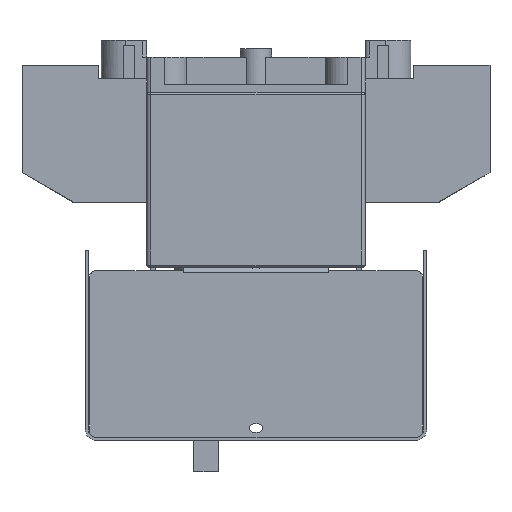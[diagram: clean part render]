
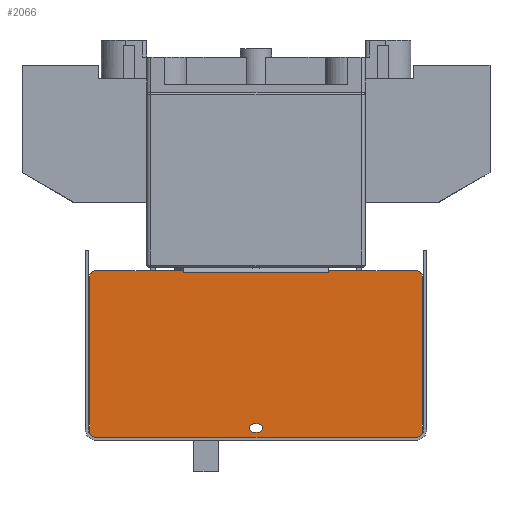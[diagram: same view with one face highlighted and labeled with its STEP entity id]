
A CAD part, left-side view. The second image highlights one B-rep face of the part: STEP entity #2066.
In plain terms, the highlighted planar face has unit normal (-1, 0, 0).
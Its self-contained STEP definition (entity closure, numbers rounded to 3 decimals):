
#170=FACE_BOUND('',#5221,.T.);
#171=FACE_BOUND('',#5222,.T.);
#1106=CIRCLE('',#23888,2.1);
#1108=CIRCLE('',#23892,2.1);
#1110=CIRCLE('',#23896,3.);
#1112=CIRCLE('',#23899,3.);
#1114=CIRCLE('',#23903,3.);
#1116=CIRCLE('',#23907,3.);
#2066=ADVANCED_FACE('',(#170,#171),#3020,.T.);
#3020=PLANE('',#23910);
#5221=EDGE_LOOP('',(#9303,#9304,#9305,#9306,#9307,#9308,#9309,#9310,#9311,
#9312,#9313,#9314,#9315,#9316));
#5222=EDGE_LOOP('',(#9317,#9318,#9319,#9320));
#9303=ORIENTED_EDGE('',*,*,#16331,.F.);
#9304=ORIENTED_EDGE('',*,*,#16332,.T.);
#9305=ORIENTED_EDGE('',*,*,#16333,.T.);
#9306=ORIENTED_EDGE('',*,*,#16334,.T.);
#9307=ORIENTED_EDGE('',*,*,#16335,.F.);
#9308=ORIENTED_EDGE('',*,*,#16323,.T.);
#9309=ORIENTED_EDGE('',*,*,#16328,.T.);
#9310=ORIENTED_EDGE('',*,*,#16311,.T.);
#9311=ORIENTED_EDGE('',*,*,#16314,.T.);
#9312=ORIENTED_EDGE('',*,*,#16289,.T.);
#9313=ORIENTED_EDGE('',*,*,#16317,.T.);
#9314=ORIENTED_EDGE('',*,*,#16320,.T.);
#9315=ORIENTED_EDGE('',*,*,#16322,.T.);
#9316=ORIENTED_EDGE('',*,*,#16297,.T.);
#9317=ORIENTED_EDGE('',*,*,#16301,.T.);
#9318=ORIENTED_EDGE('',*,*,#16305,.T.);
#9319=ORIENTED_EDGE('',*,*,#16308,.T.);
#9320=ORIENTED_EDGE('',*,*,#16330,.T.);
#13214=VERTEX_POINT('',#33435);
#13259=VERTEX_POINT('',#33532);
#13543=VERTEX_POINT('',#34623);
#13544=VERTEX_POINT('',#34625);
#13547=VERTEX_POINT('',#34632);
#13548=VERTEX_POINT('',#34634);
#13550=VERTEX_POINT('',#34640);
#13552=VERTEX_POINT('',#34646);
#13555=VERTEX_POINT('',#34653);
#13556=VERTEX_POINT('',#34655);
#13558=VERTEX_POINT('',#34664);
#13560=VERTEX_POINT('',#34670);
#13561=VERTEX_POINT('',#34677);
#13562=VERTEX_POINT('',#34678);
#13565=VERTEX_POINT('',#34692);
#13566=VERTEX_POINT('',#34694);
#13567=VERTEX_POINT('',#34696);
#13568=VERTEX_POINT('',#34698);
#16289=EDGE_CURVE('',#13214,#13259,#19143,.T.);
#16297=EDGE_CURVE('',#13544,#13543,#19150,.T.);
#16301=EDGE_CURVE('',#13548,#13547,#1106,.T.);
#16305=EDGE_CURVE('',#13547,#13550,#19156,.T.);
#16308=EDGE_CURVE('',#13550,#13552,#1108,.T.);
#16311=EDGE_CURVE('',#13556,#13555,#19160,.T.);
#16314=EDGE_CURVE('',#13555,#13214,#1110,.T.);
#16317=EDGE_CURVE('',#13259,#13558,#1112,.T.);
#16320=EDGE_CURVE('',#13558,#13560,#19165,.T.);
#16322=EDGE_CURVE('',#13560,#13544,#1114,.T.);
#16323=EDGE_CURVE('',#13561,#13562,#19166,.T.);
#16328=EDGE_CURVE('',#13562,#13556,#1116,.T.);
#16330=EDGE_CURVE('',#13552,#13548,#19171,.T.);
#16331=EDGE_CURVE('',#13565,#13543,#19172,.T.);
#16332=EDGE_CURVE('',#13565,#13566,#19173,.T.);
#16333=EDGE_CURVE('',#13566,#13567,#19174,.T.);
#16334=EDGE_CURVE('',#13567,#13568,#19175,.T.);
#16335=EDGE_CURVE('',#13561,#13568,#19176,.T.);
#19143=LINE('',#34606,#21653);
#19150=LINE('',#34624,#21660);
#19156=LINE('',#34641,#21666);
#19160=LINE('',#34654,#21670);
#19165=LINE('',#34671,#21675);
#19166=LINE('',#34676,#21676);
#19171=LINE('',#34689,#21681);
#19172=LINE('',#34691,#21682);
#19173=LINE('',#34693,#21683);
#19174=LINE('',#34695,#21684);
#19175=LINE('',#34697,#21685);
#19176=LINE('',#34699,#21686);
#21653=VECTOR('',#28133,1.);
#21660=VECTOR('',#28146,1.);
#21666=VECTOR('',#28160,1.);
#21670=VECTOR('',#28172,1.);
#21675=VECTOR('',#28191,1.);
#21676=VECTOR('',#28200,1.);
#21681=VECTOR('',#28213,1.);
#21682=VECTOR('',#28216,1.);
#21683=VECTOR('',#28217,1.);
#21684=VECTOR('',#28218,1.);
#21685=VECTOR('',#28219,1.);
#21686=VECTOR('',#28220,1.);
#23888=AXIS2_PLACEMENT_3D('',#34633,#28153,#28154);
#23892=AXIS2_PLACEMENT_3D('',#34647,#28166,#28167);
#23896=AXIS2_PLACEMENT_3D('',#34659,#28178,#28179);
#23899=AXIS2_PLACEMENT_3D('',#34665,#28185,#28186);
#23903=AXIS2_PLACEMENT_3D('',#34674,#28196,#28197);
#23907=AXIS2_PLACEMENT_3D('',#34686,#28208,#28209);
#23910=AXIS2_PLACEMENT_3D('',#34700,#28221,#28222);
#28133=DIRECTION('',(0.,-1.,0.));
#28146=DIRECTION('',(0.,1.,0.));
#28153=DIRECTION('',(1.,0.,0.));
#28154=DIRECTION('',(0.,1.,0.));
#28160=DIRECTION('',(0.,-1.,0.));
#28166=DIRECTION('',(1.,0.,0.));
#28167=DIRECTION('',(0.,1.,0.));
#28172=DIRECTION('',(0.,0.,-1.));
#28178=DIRECTION('',(-1.,0.,0.));
#28179=DIRECTION('',(0.,1.,0.));
#28185=DIRECTION('',(-1.,0.,0.));
#28186=DIRECTION('',(0.,1.,0.));
#28191=DIRECTION('',(0.,0.,1.));
#28196=DIRECTION('',(-1.,0.,0.));
#28197=DIRECTION('',(0.,1.,0.));
#28200=DIRECTION('',(0.,1.,0.));
#28208=DIRECTION('',(-1.,0.,0.));
#28209=DIRECTION('',(0.,1.,0.));
#28213=DIRECTION('',(0.,1.,0.));
#28216=DIRECTION('',(0.,0.,1.));
#28217=DIRECTION('',(0.,1.,0.));
#28218=DIRECTION('',(0.,1.,0.));
#28219=DIRECTION('',(0.,1.,0.));
#28220=DIRECTION('',(0.,0.,-1.));
#28221=DIRECTION('',(-1.,0.,0.));
#28222=DIRECTION('',(0.,-1.,0.));
#33435=CARTESIAN_POINT('',(-189.3,77.,-165.8));
#33532=CARTESIAN_POINT('',(-189.3,-77.,-165.8));
#34606=CARTESIAN_POINT('',(-189.3,77.,-165.8));
#34623=CARTESIAN_POINT('',(-189.3,-35.002,-85.8));
#34624=CARTESIAN_POINT('',(-189.3,-77.,-85.8));
#34625=CARTESIAN_POINT('',(-189.3,-77.,-85.8));
#34632=CARTESIAN_POINT('',(-189.3,1.,-159.3));
#34633=CARTESIAN_POINT('',(-189.3,1.,-161.4));
#34634=CARTESIAN_POINT('',(-189.3,1.,-163.5));
#34640=CARTESIAN_POINT('',(-189.3,-1.,-159.3));
#34641=CARTESIAN_POINT('',(-189.3,1.,-159.3));
#34646=CARTESIAN_POINT('',(-189.3,-1.,-163.5));
#34647=CARTESIAN_POINT('',(-189.3,-1.,-161.4));
#34653=CARTESIAN_POINT('',(-189.3,80.,-162.8));
#34654=CARTESIAN_POINT('',(-189.3,80.,-88.8));
#34655=CARTESIAN_POINT('',(-189.3,80.,-88.8));
#34659=CARTESIAN_POINT('',(-189.3,77.,-162.8));
#34664=CARTESIAN_POINT('',(-189.3,-80.,-162.8));
#34665=CARTESIAN_POINT('',(-189.3,-77.,-162.8));
#34670=CARTESIAN_POINT('',(-189.3,-80.,-88.8));
#34671=CARTESIAN_POINT('',(-189.3,-80.,-162.8));
#34674=CARTESIAN_POINT('',(-189.3,-77.,-88.8));
#34676=CARTESIAN_POINT('',(-189.3,-77.,-85.8));
#34677=CARTESIAN_POINT('',(-189.3,35.002,-85.8));
#34678=CARTESIAN_POINT('',(-189.3,77.,-85.8));
#34686=CARTESIAN_POINT('',(-189.3,77.,-88.8));
#34689=CARTESIAN_POINT('',(-189.3,-1.,-163.5));
#34691=CARTESIAN_POINT('',(-189.3,-35.002,-162.8));
#34692=CARTESIAN_POINT('',(-189.3,-35.002,-86.8));
#34693=CARTESIAN_POINT('',(-189.3,77.,-86.8));
#34694=CARTESIAN_POINT('',(-189.3,-35.,-86.8));
#34695=CARTESIAN_POINT('',(-189.3,50.5,-86.8));
#34696=CARTESIAN_POINT('',(-189.3,35.,-86.8));
#34697=CARTESIAN_POINT('',(-189.3,77.,-86.8));
#34698=CARTESIAN_POINT('',(-189.3,35.002,-86.8));
#34699=CARTESIAN_POINT('',(-189.3,35.002,-162.8));
#34700=CARTESIAN_POINT('',(-189.3,77.,-162.8));
